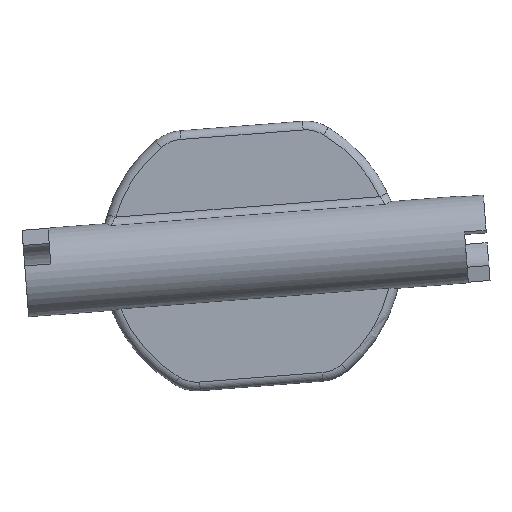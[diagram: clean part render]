
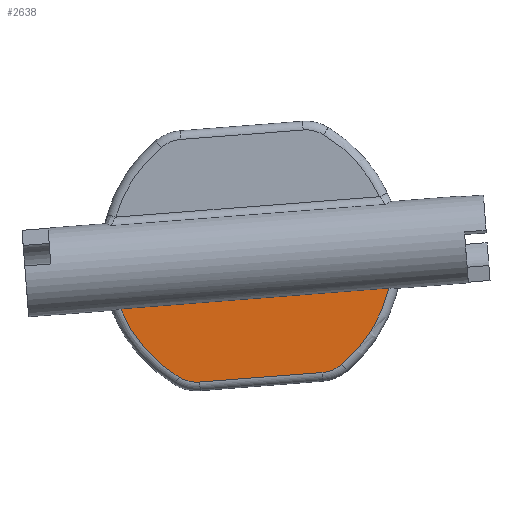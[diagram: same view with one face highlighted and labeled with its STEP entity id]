
A CAD part, front view. The second image highlights one B-rep face of the part: STEP entity #2638.
In plain terms, the highlighted planar face has unit normal (0, -1, 0).
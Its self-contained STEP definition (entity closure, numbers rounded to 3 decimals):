
#749=CARTESIAN_POINT('',(908.8,-1.,-117.278));
#750=DIRECTION('',(0.,1.,0.));
#751=DIRECTION('',(-0.512,0.,-0.859));
#752=AXIS2_PLACEMENT_3D('',#749,#750,#751);
#754=DIRECTION('',(-0.997,0.,-0.077));
#755=VECTOR('',#754,30.925);
#756=CARTESIAN_POINT('',(924.595,-1.,-120.968));
#757=LINE('',#756,#755);
#758=CARTESIAN_POINT('',(908.8,-1.,-117.278));
#759=DIRECTION('',(0.,1.,0.));
#760=DIRECTION('',(0.974,0.,-0.227));
#761=AXIS2_PLACEMENT_3D('',#758,#759,#760);
#763=CARTESIAN_POINT('',(916.6,-1.,-126.685));
#764=DIRECTION('',(0.,1.,0.));
#765=DIRECTION('',(0.638,0.,-0.77));
#766=AXIS2_PLACEMENT_3D('',#763,#764,#765);
#768=DIRECTION('',(-0.997,0.,-0.077));
#769=VECTOR('',#768,14.1);
#770=CARTESIAN_POINT('',(916.909,-1.,-130.673));
#771=LINE('',#770,#769);
#772=CARTESIAN_POINT('',(902.542,-1.,-127.774));
#773=DIRECTION('',(0.,1.,0.));
#774=DIRECTION('',(0.077,0.,-0.997));
#775=AXIS2_PLACEMENT_3D('',#772,#773,#774);
#1366=CARTESIAN_POINT('',(900.494,-1.,-131.21));
#1367=CARTESIAN_POINT('',(893.762,-1.,-123.356));
#1368=VERTEX_POINT('',#1366);
#1369=VERTEX_POINT('',#1367);
#1374=CARTESIAN_POINT('',(902.851,-1.,-131.762));
#1375=VERTEX_POINT('',#1374);
#1376=CARTESIAN_POINT('',(916.909,-1.,-130.673));
#1377=VERTEX_POINT('',#1376);
#1378=CARTESIAN_POINT('',(919.153,-1.,-129.764));
#1379=VERTEX_POINT('',#1378);
#1384=CARTESIAN_POINT('',(924.595,-1.,-120.968));
#1385=VERTEX_POINT('',#1384);
#2619=CARTESIAN_POINT('',(0.,-1.,0.));
#2620=DIRECTION('',(0.,-1.,0.));
#2621=DIRECTION('',(1.,0.,0.));
#2622=AXIS2_PLACEMENT_3D('',#2619,#2620,#2621);
#2623=PLANE('',#2622);
#2625=ORIENTED_EDGE('',*,*,#2624,.T.);
#2627=ORIENTED_EDGE('',*,*,#2626,.F.);
#2629=ORIENTED_EDGE('',*,*,#2628,.T.);
#2631=ORIENTED_EDGE('',*,*,#2630,.T.);
#2633=ORIENTED_EDGE('',*,*,#2632,.T.);
#2635=ORIENTED_EDGE('',*,*,#2634,.T.);
#2636=EDGE_LOOP('',(#2625,#2627,#2629,#2631,#2633,#2635));
#2637=FACE_OUTER_BOUND('',#2636,.F.);
#2638=ADVANCED_FACE('',(#2637),#2623,.T.);
#753=CIRCLE('',#752,16.22);
#762=CIRCLE('',#761,16.22);
#767=CIRCLE('',#766,4.);
#776=CIRCLE('',#775,4.);
#2624=EDGE_CURVE('',#1368,#1369,#753,.T.);
#2626=EDGE_CURVE('',#1385,#1369,#757,.T.);
#2628=EDGE_CURVE('',#1385,#1379,#762,.T.);
#2630=EDGE_CURVE('',#1379,#1377,#767,.T.);
#2632=EDGE_CURVE('',#1377,#1375,#771,.T.);
#2634=EDGE_CURVE('',#1375,#1368,#776,.T.);
